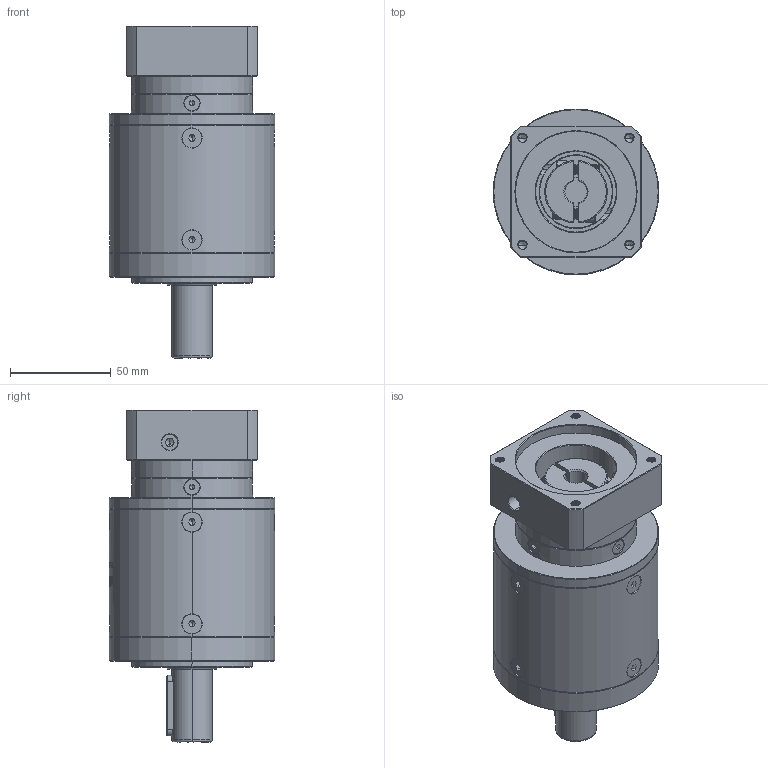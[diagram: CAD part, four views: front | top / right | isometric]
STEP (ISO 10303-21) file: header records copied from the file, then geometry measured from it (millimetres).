
FILE_DESCRIPTION (( 'STEP AP214' ), '1' );
FILE_NAME ('ZE80-D20-L3-11-60-75-M5.step', '2022-05-08T06:01:15', ( '' ), ( 'Microsoft' ), 'SwSTEP 2.0', 'SolidWorks 2016', '' );
FILE_SCHEMA (( 'AUTOMOTIVE_DESIGN' ));
Length unit declared in the file: millimetre
Products named in the file (1): ZE80-D20-L3-11-60-75-M5
Bounding box: 82 x 82 x 164.5 mm (x, y, z)
Volume: 559609.8 mm3; surface area: 71996.1 mm2
Topology: 18 solids, 18 shells, 2132 faces, 5609 edges, 3569 vertices
Faces by surface type: plane 948, cylinder 517, bspline 340, cone 313, torus 14
Entity records: 121718 total; most frequent: CARTESIAN_POINT 49866, ORIENTED_EDGE 11126, DIRECTION 8657, EDGE_CURVE 5563, VERTEX_POINT 3569, LINE 2969, VECTOR 2969, AXIS2_PLACEMENT_3D 2844
